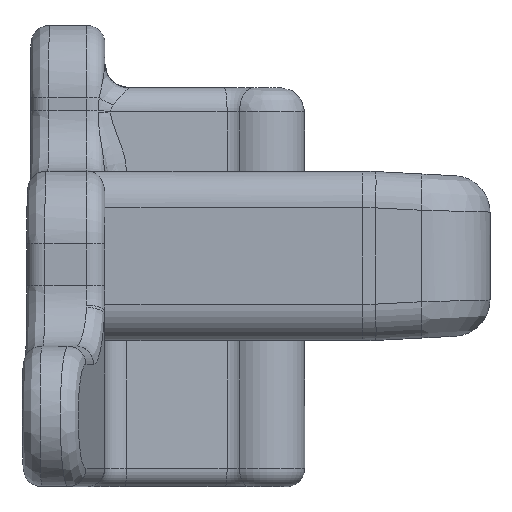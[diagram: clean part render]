
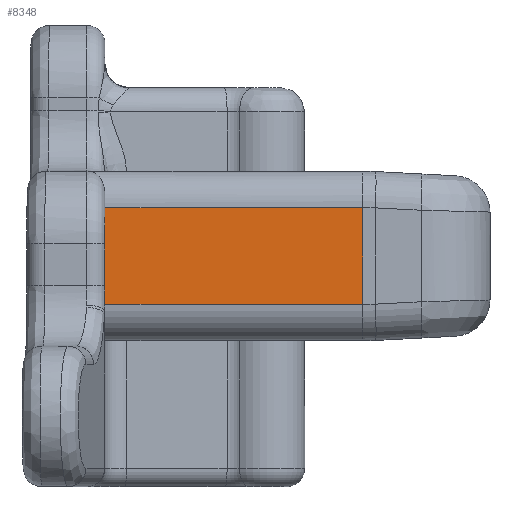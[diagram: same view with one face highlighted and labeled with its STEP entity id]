
A CAD part, left-side view. The second image highlights one B-rep face of the part: STEP entity #8348.
In plain terms, the highlighted planar face has unit normal (-1, 0, 0).
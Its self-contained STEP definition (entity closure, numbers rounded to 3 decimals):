
#3656=DIRECTION('',(0.,-1.,0.));
#3657=VECTOR('',#3656,10.638);
#3658=CARTESIAN_POINT('',(-10.,0.,2.));
#3659=LINE('',#3658,#3657);
#3663=DIRECTION('',(0.,0.,-1.));
#3664=VECTOR('',#3663,4.);
#3665=CARTESIAN_POINT('',(-10.,-10.638,
2.));
#3666=LINE('',#3665,#3664);
#3670=DIRECTION('',(0.,1.,0.));
#3671=VECTOR('',#3670,10.638);
#3672=CARTESIAN_POINT('',(-10.,-10.638,
-2.));
#3673=LINE('',#3672,#3671);
#3677=DIRECTION('',(0.,0.,1.));
#3678=VECTOR('',#3677,4.);
#3679=CARTESIAN_POINT('',(-10.,0.,-2.));
#3680=LINE('',#3679,#3678);
#3684=CARTESIAN_POINT('',(-10.,-10.638,
2.));
#3934=VERTEX_POINT('',#3684);
#3935=CARTESIAN_POINT('',(-10.,0.,2.));
#3936=VERTEX_POINT('',#3935);
#3937=CARTESIAN_POINT('',(-10.,-10.638,
-2.));
#3938=CARTESIAN_POINT('',(-10.,0.,-2.));
#3939=VERTEX_POINT('',#3937);
#3940=VERTEX_POINT('',#3938);
#8335=CARTESIAN_POINT('',(-10.,5.,-3.5));
#8336=DIRECTION('',(-1.,0.,0.));
#8337=DIRECTION('',(0.,-1.,0.));
#8338=AXIS2_PLACEMENT_3D('',#8335,#8336,#8337);
#8339=PLANE('',#8338);
#8340=ORIENTED_EDGE('',*,*,#8330,.T.);
#8342=ORIENTED_EDGE('',*,*,#8341,.T.);
#8344=ORIENTED_EDGE('',*,*,#8343,.T.);
#8345=ORIENTED_EDGE('',*,*,#6006,.T.);
#8346=EDGE_LOOP('',(#8340,#8342,#8344,#8345));
#8347=FACE_OUTER_BOUND('',#8346,.F.);
#6006=EDGE_CURVE('',#3940,#3936,#3680,.T.);
#8330=EDGE_CURVE('',#3936,#3934,#3659,.T.);
#8341=EDGE_CURVE('',#3934,#3939,#3666,.T.);
#8343=EDGE_CURVE('',#3939,#3940,#3673,.T.);
#8348=ADVANCED_FACE('',(#8347),#8339,.T.);
